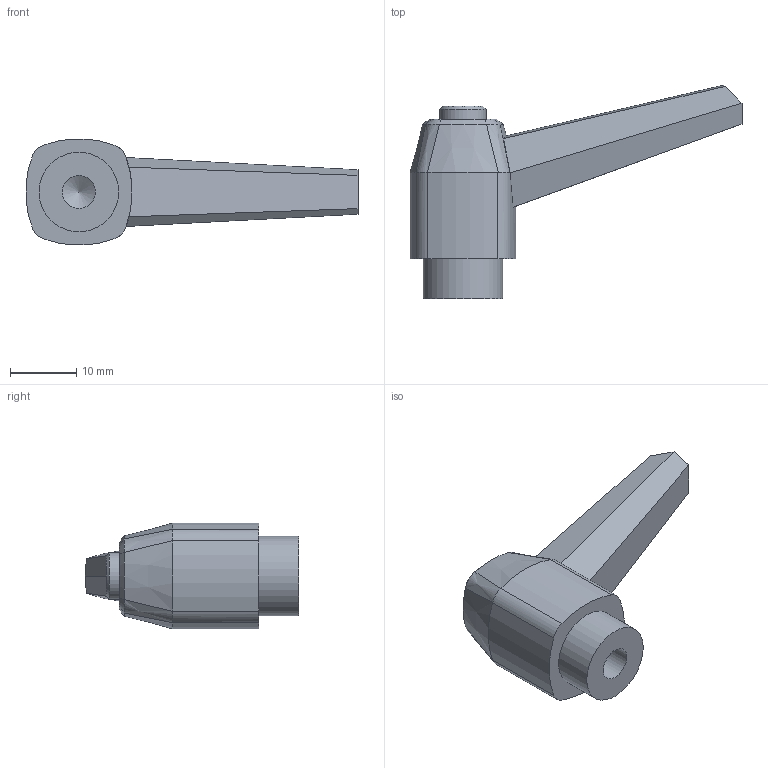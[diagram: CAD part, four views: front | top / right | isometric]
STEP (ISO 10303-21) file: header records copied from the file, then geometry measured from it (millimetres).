
FILE_DESCRIPTION (( 'STEP AP214' ), '1' );
FILE_NAME ('500-42-M6-SW.step', '2022-04-13T07:18:36', ( '' ), ( '' ), 'SwSTEP 2.0', 'SolidWorks 2019', '' );
FILE_SCHEMA (( 'AUTOMOTIVE_DESIGN' ));
Length unit declared in the file: millimetre
Products named in the file (1): 500-42-M6-SW
Bounding box: 49.96 x 32.15 x 15.92 mm (x, y, z)
Volume: 6877.5 mm3; surface area: 2973.4 mm2
Topology: 1 solids, 1 shells, 51 faces, 123 edges, 78 vertices
Faces by surface type: plane 21, cylinder 12, cone 10, bspline 8
Full cylindrical faces by diameter (mm): 5 x1, 7 x1, 8 x1, 12 x1
Entity records: 1822 total; most frequent: CARTESIAN_POINT 729, ORIENTED_EDGE 232, DIRECTION 182, EDGE_CURVE 116, VERTEX_POINT 77, AXIS2_PLACEMENT_3D 74, EDGE_LOOP 61, FACE_OUTER_BOUND 55
